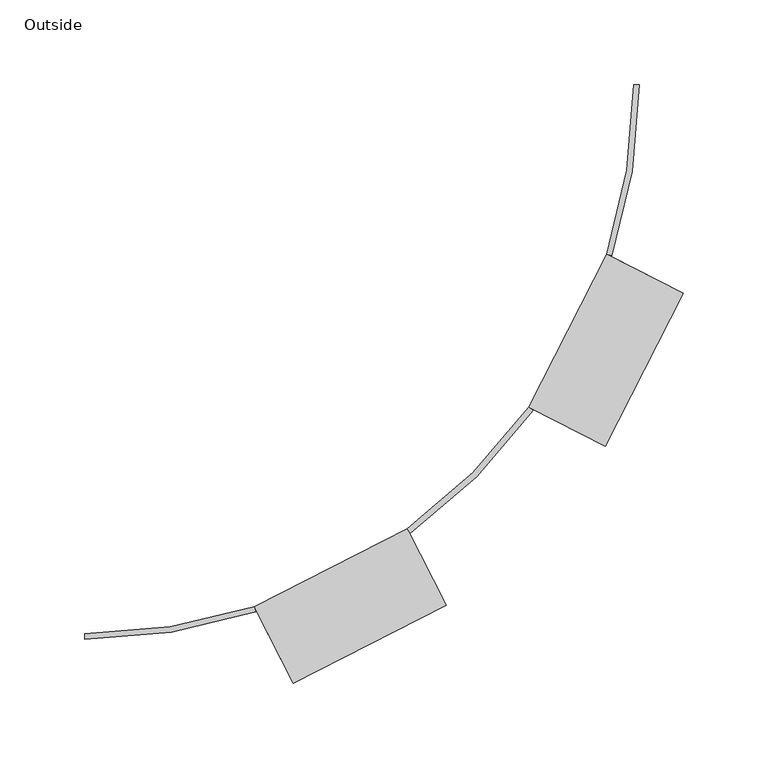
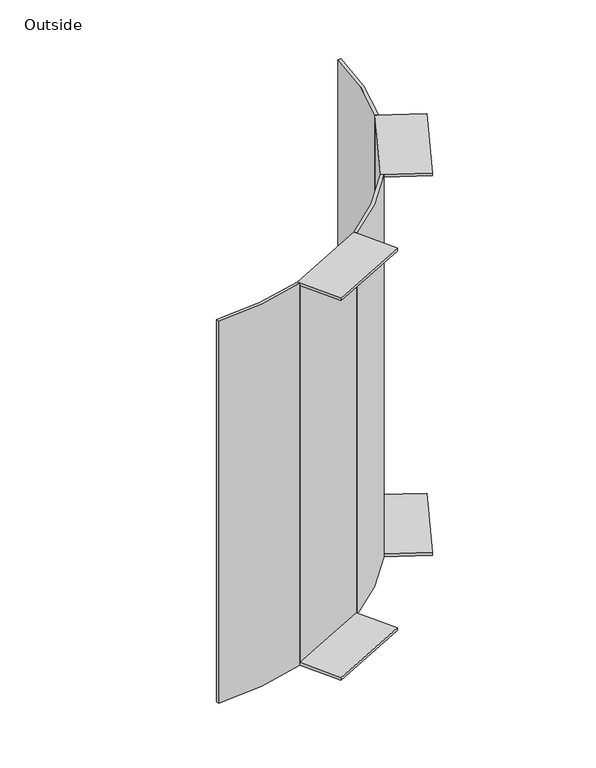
"""IFC4 building model written with IfcOpenShell, lengths in millimetres: cable carrier fitting geometry, Bend-Vertical-Cablofil-Wire_Mesh_Cable_Tray : Outside."""

from ifc_helpers import new_model, si_unit, point, frame, frame_2d, origin, place, context, project, spatial, polyline, circle_curve, trimmed, segment, composite_curve, outline, extrude, source, transform, mapped, element, save


def outside_6f8a794d(model_context):
    return source(origin(), model_context, "Body", "SweptSolid", [
        extrude(outline(composite_curve([segment(polyline([(-87.4191764, 159.2612254), (-84.8505475, 157.3950072)]), True, "CONTINUOUS"), segment(trimmed(circle_curve(frame_2d((-350.1366237, 350.1366237)), 327.9116237), [point((-84.8505475, 157.3950072))], [point((-157.3950072, 84.8505475))], False, "CARTESIAN"), True, "CONTINUOUS"), segment(polyline([(-157.3950072, 84.8505475), (-159.2612254, 87.4191764)]), True, "CONTINUOUS"), segment(trimmed(circle_curve(frame_2d((-350.1366237, 350.1366237)), 324.7366237), [point((-159.2612254, 87.4191764))], [point((-87.4191764, 159.2612254))], True, "CARTESIAN"), True, "CONTINUOUS")], self_intersect=False)), frame((0.0, 0.0, -228.6), z_axis=(0.0, 0.0, 1.0), x_axis=(1.0, 0.0, 0.0)), (0.0, 0.0, 1.0), 457.2),
        extrude(outline(composite_curve([segment(polyline([(-249.7874882, 41.2937416), (-248.8063593, 38.2741372)]), True, "CONTINUOUS"), segment(trimmed(circle_curve(frame_2d((-350.1366237, 350.1366237)), 327.9116237), [point((-248.8063593, 38.2741372))], [point((-350.1366237, 22.225))], False, "CARTESIAN"), True, "CONTINUOUS"), segment(polyline([(-350.1366237, 22.225), (-350.1366237, 25.4)]), True, "CONTINUOUS"), segment(trimmed(circle_curve(frame_2d((-350.1366237, 350.1366237)), 324.7366237), [point((-350.1366237, 25.4))], [point((-249.7874882, 41.2937416))], True, "CARTESIAN"), True, "CONTINUOUS")], self_intersect=False)), frame((0.0, 0.0, -228.6), z_axis=(0.0, 0.0, 1.0), x_axis=(1.0, 0.0, 0.0)), (0.0, 0.0, 1.0), 457.2),
        extrude(outline(composite_curve([segment(polyline([(-25.4, 350.1366237), (-22.225, 350.1366237)]), True, "CONTINUOUS"), segment(trimmed(circle_curve(frame_2d((-350.1366237, 350.1366237)), 327.9116237), [point((-22.225, 350.1366237))], [point((-38.2741372, 248.8063593))], False, "CARTESIAN"), True, "CONTINUOUS"), segment(polyline([(-38.2741372, 248.8063593), (-41.2937416, 249.7874882)]), True, "CONTINUOUS"), segment(trimmed(circle_curve(frame_2d((-350.1366237, 350.1366237)), 324.7366237), [point((-41.2937416, 249.7874882))], [point((-25.4, 350.1366237))], True, "CARTESIAN"), True, "CONTINUOUS")], self_intersect=False)), frame((0.0, 0.0, -228.6), z_axis=(0.0, 0.0, 1.0), x_axis=(1.0, 0.0, 0.0)), (0.0, 0.0, 1.0), 457.2),
        extrude(outline(polyline([(-50.7999999, 0.0), (0.0, 0.0), (0.0, -457.2), (-50.7999999, -457.2), (-50.7999999, -454.025), (-3.175, -454.025), (-3.175, -3.175), (-50.7999999, -3.175), (-50.7999999, 0.0)])), frame((-249.7874882, 41.2937416, 228.6), z_axis=(0.8910065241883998, 0.45399049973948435, 0.0), x_axis=(-0.45399049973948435, 0.8910065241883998, 0.0)), (0.0, 0.0, 1.0), 101.6),
        extrude(outline(polyline([(-50.8, 0.0), (0.0, 0.0), (0.0, -457.2), (-50.8, -457.2), (-50.8, -454.025), (-3.175, -454.025), (-3.175, -3.175), (-50.8, -3.175), (-50.8, 0.0)])), frame((-87.4191764, 159.2612254, 228.6), z_axis=(0.45399049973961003, 0.8910065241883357, 0.0), x_axis=(-0.8910065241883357, 0.45399049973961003, 0.0)), (0.0, 0.0, 1.0), 101.6),
    ])


if __name__ == "__main__":
    model = new_model("IFC4")
    model_context = context("Model", 3, world=origin())
    ifc_project = project(units=[si_unit("LENGTHUNIT", "METRE", prefix="MILLI")], contexts=[model_context])
    site = spatial("IfcSite", under=ifc_project)
    building = spatial("IfcBuilding", under=site)
    placement = place(None, origin())
    outside_shape = outside_6f8a794d(model_context)
    element("IfcCableCarrierFitting", 1, ObjectType="Bend-Vertical-Cablofil-Wire_Mesh_Cable_Tray : Outside", at=placement, inside=building, context=model_context, shape_type="MappedRepresentation", body=[
        mapped(outside_shape, transform((0.0, 0.0, 0.0), x_axis=(1.0, 0.0, 0.0), y_axis=(0.0, 1.0, 0.0), z_axis=(0.0, 0.0, 1.0))),
    ])
    save(model, "model.ifc")
